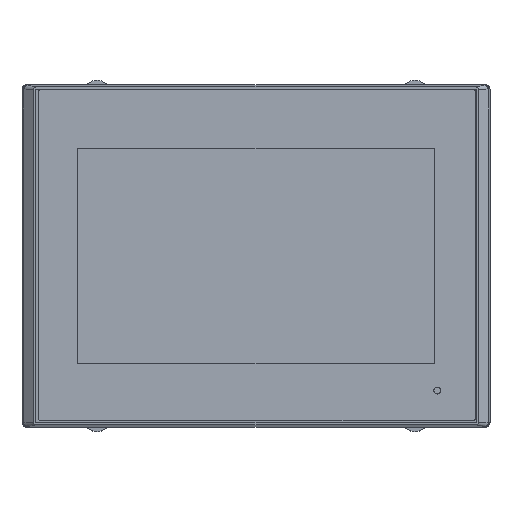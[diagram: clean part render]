
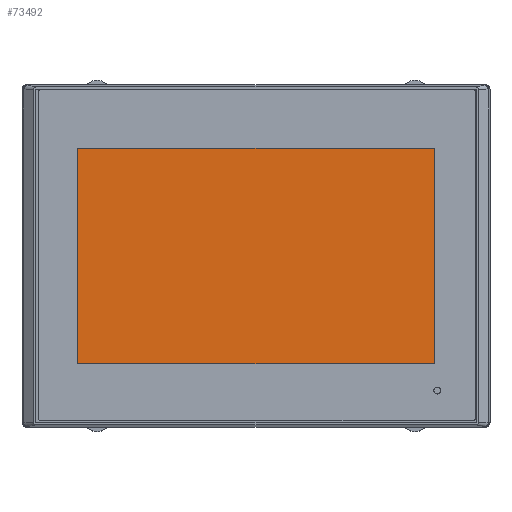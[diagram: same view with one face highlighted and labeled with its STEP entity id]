
A CAD part, top view. The second image highlights one B-rep face of the part: STEP entity #73492.
In plain terms, the highlighted planar face has unit normal (0, 0, 1).
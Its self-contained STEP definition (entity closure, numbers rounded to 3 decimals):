
#29225=DIRECTION('',(-1.,0.,0.));
#29226=VECTOR('',#29225,153.4);
#29227=CARTESIAN_POINT('',(76.7,46.45,7.1));
#29228=LINE('',#29227,#29226);
#29229=DIRECTION('',(0.,1.,0.));
#29230=VECTOR('',#29229,92.9);
#29231=CARTESIAN_POINT('',(76.7,-46.45,7.1));
#29232=LINE('',#29231,#29230);
#29233=DIRECTION('',(1.,0.,0.));
#29234=VECTOR('',#29233,153.4);
#29235=CARTESIAN_POINT('',(-76.7,-46.45,7.1));
#29236=LINE('',#29235,#29234);
#29237=DIRECTION('',(0.,-1.,0.));
#29238=VECTOR('',#29237,92.9);
#29239=CARTESIAN_POINT('',(-76.7,46.45,7.1));
#29240=LINE('',#29239,#29238);
#35178=CARTESIAN_POINT('',(76.7,46.45,7.1));
#35179=CARTESIAN_POINT('',(-76.7,46.45,7.1));
#35180=VERTEX_POINT('',#35178);
#35181=VERTEX_POINT('',#35179);
#35182=CARTESIAN_POINT('',(-76.7,-46.45,7.1));
#35183=VERTEX_POINT('',#35182);
#35184=CARTESIAN_POINT('',(76.7,-46.45,7.1));
#35185=VERTEX_POINT('',#35184);
#73481=CARTESIAN_POINT('',(0.,0.,7.1));
#73482=DIRECTION('',(0.,0.,1.));
#73483=DIRECTION('',(1.,0.,0.));
#73484=AXIS2_PLACEMENT_3D('',#73481,#73482,#73483);
#73485=PLANE('',#73484);
#73486=ORIENTED_EDGE('',*,*,#73433,.F.);
#73487=ORIENTED_EDGE('',*,*,#73448,.F.);
#73488=ORIENTED_EDGE('',*,*,#73462,.F.);
#73489=ORIENTED_EDGE('',*,*,#73475,.F.);
#73490=EDGE_LOOP('',(#73486,#73487,#73488,#73489));
#73491=FACE_OUTER_BOUND('',#73490,.F.);
#73492=ADVANCED_FACE('',(#73491),#73485,.T.);
#73433=EDGE_CURVE('',#35180,#35181,#29228,.T.);
#73448=EDGE_CURVE('',#35185,#35180,#29232,.T.);
#73462=EDGE_CURVE('',#35183,#35185,#29236,.T.);
#73475=EDGE_CURVE('',#35181,#35183,#29240,.T.);
